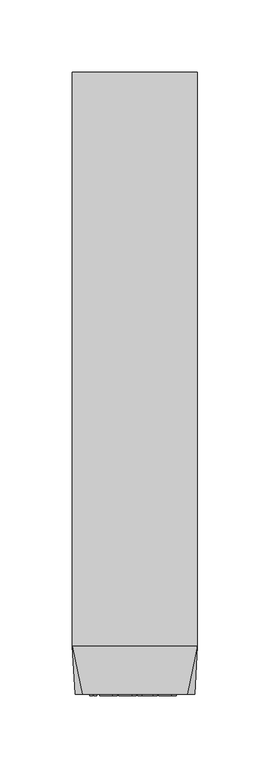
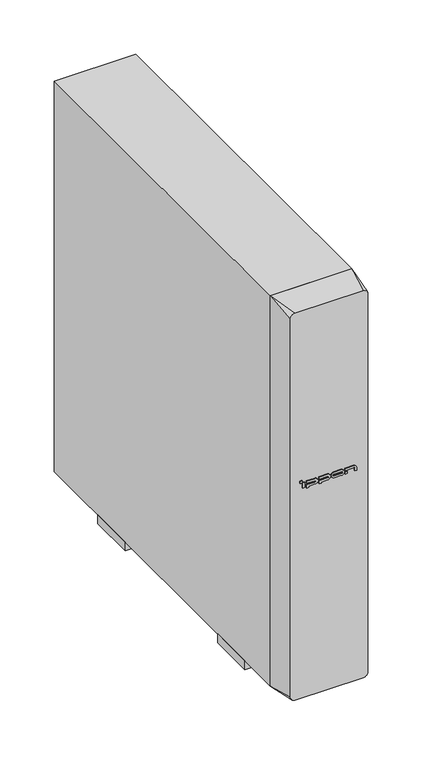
"""IFC4 building model written with IfcOpenShell, lengths in millimetres: proxy geometry, IPPON_EBM_Smart Winner II_1500_2000_2000E_3000ВА : EBM Smart Winner II 1500 ВА."""

import ifcopenshell
import ifcopenshell.guid

model = None  # the IFC model being written
_history = None  # IfcOwnerHistory: only IFC2X3 demands one
_inside = {}  # id of a spatial element -> (the spatial element, [elements in it])
_under = {}  # id of a project, library or spatial element -> (it, [spatial elements below it])
_declared = {}  # id of a project -> (the project, [libraries it declares])
_typed = {}  # id of a type object -> (the type object, [elements of that type])
_made_of = {}  # id of a material, layer set ... -> (it, [elements and type objects made of it])


def new_model(schema):
    """Start an empty IFC model of exactly this schema.

    Asked for "IFC4X3", IfcOpenShell would pick the latest addendum, in which some entities
    have other attributes; the version numbers below select the first issue.
    IFC2X3 requires an IfcOwnerHistory on every rooted entity: one is made here for all.
    """
    global model, _history
    if schema == "IFC4X3":
        model = ifcopenshell.file(schema_version=(4, 3, 0, 0))
    else:
        model = ifcopenshell.file(schema=schema)
    _inside.clear()
    _under.clear()
    _declared.clear()
    _typed.clear()
    _made_of.clear()
    _history = None
    if model.schema == "IFC2X3":
        org = make("IfcOrganization", Name="unknown")
        user = make(
            "IfcPersonAndOrganization",
            ThePerson=make("IfcPerson", FamilyName="unknown"),
            TheOrganization=org,
        )
        app = make(
            "IfcApplication",
            ApplicationDeveloper=org,
            Version="unknown",
            ApplicationFullName="unknown",
            ApplicationIdentifier="unknown",
        )
        _history = make(
            "IfcOwnerHistory",
            OwningUser=user,
            OwningApplication=app,
            ChangeAction="ADDED",
            CreationDate=0,
        )
    return model


def make(cls, **values):
    """One entity of the class cls with the attributes given. An attribute that is None is left unset."""
    return model.create_entity(
        cls, **{name: value for name, value in values.items() if value is not None}
    )


def rooted(cls, **values):
    """An entity with a GlobalId (a new one), such as an element, a storey or a relation."""
    return make(cls, GlobalId=ifcopenshell.guid.new(), OwnerHistory=_history, **values)


def si_unit(unit_type, name, prefix=None):
    """IfcSIUnit, for example si_unit("LENGTHUNIT", "METRE", prefix="MILLI")."""
    return make("IfcSIUnit", UnitType=unit_type, Prefix=prefix, Name=name)


def assignment(units):
    """IfcUnitAssignment: the units of a project."""
    return None if units is None else make("IfcUnitAssignment", Units=units)


def point(xyz):
    """IfcCartesianPoint."""
    return None if xyz is None else make("IfcCartesianPoint", Coordinates=xyz)


def direction(xyz):
    """IfcDirection."""
    return None if xyz is None else make("IfcDirection", DirectionRatios=xyz)


def frame(location, z_axis=None, x_axis=None):
    """IfcAxis2Placement3D, a coordinate frame: its origin and axes. An axis left out is left unset."""
    return make(
        "IfcAxis2Placement3D",
        Location=point(location),
        Axis=direction(z_axis),
        RefDirection=direction(x_axis),
    )


def frame_2d(location, x_axis=None):
    """IfcAxis2Placement2D, a coordinate frame in the plane: its origin and x axis."""
    return make(
        "IfcAxis2Placement2D", Location=point(location), RefDirection=direction(x_axis)
    )


def origin():
    """The frame at (0, 0, 0) with its axes left unset."""
    return frame((0.0, 0.0, 0.0))


def origin_with_axes():
    """The frame at (0, 0, 0) with the z axis (0, 0, 1) and the x axis (1, 0, 0) written out."""
    return frame((0.0, 0.0, 0.0), z_axis=(0.0, 0.0, 1.0), x_axis=(1.0, 0.0, 0.0))


def place(relative_to, where):
    """IfcLocalPlacement: puts the frame where relative to a parent placement (None: the world)."""
    return make(
        "IfcLocalPlacement", PlacementRelTo=relative_to, RelativePlacement=where
    )


def context(
    kind, dimensions, precision=None, world=None, true_north=None, identifier=None
):
    """IfcGeometricRepresentationContext, for example the 3D "Model" context."""
    return make(
        "IfcGeometricRepresentationContext",
        ContextIdentifier=identifier,
        ContextType=kind,
        CoordinateSpaceDimension=dimensions,
        Precision=precision,
        WorldCoordinateSystem=world,
        TrueNorth=true_north,
    )


def project(units=None, contexts=None):
    """IfcProject with its units and contexts."""
    return rooted(
        "IfcProject",
        Name="project",
        RepresentationContexts=contexts,
        UnitsInContext=assignment(units),
    )


def spatial(cls, under=None, at=None, **own):
    """A site, building, storey or space (cls), placed at a placement, below another one or the project."""
    s = rooted(cls, ObjectPlacement=at, **own)
    if under is not None:
        _under.setdefault(under.id(), (under, []))[1].append(s)
    return s


def polyline(points):
    """IfcPolyline through the points."""
    return make("IfcPolyline", Points=[point(p) for p in points])


def circle_curve(where, radius):
    """IfcCircle in the frame where."""
    return make("IfcCircle", Position=where, Radius=radius)


def trimmed(basis, trim1, trim2, sense, master):
    """IfcTrimmedCurve: the piece of a basis curve between two trims."""
    return make(
        "IfcTrimmedCurve",
        BasisCurve=basis,
        Trim1=trim1,
        Trim2=trim2,
        SenseAgreement=sense,
        MasterRepresentation=master,
    )


def segment(curve, same_sense, transition):
    """IfcCompositeCurveSegment."""
    return make(
        "IfcCompositeCurveSegment",
        Transition=transition,
        SameSense=same_sense,
        ParentCurve=curve,
    )


def composite_curve(segments, self_intersect=None):
    """IfcCompositeCurve: segments joined end to end."""
    return make("IfcCompositeCurve", Segments=segments, SelfIntersect=self_intersect)


def outline(outer, holes=None, kind="AREA"):
    """IfcArbitraryClosedProfileDef: a profile drawn as a closed curve; with holes, ...WithVoids."""
    if holes is None:
        return make("IfcArbitraryClosedProfileDef", ProfileType=kind, OuterCurve=outer)
    return make(
        "IfcArbitraryProfileDefWithVoids",
        ProfileType=kind,
        OuterCurve=outer,
        InnerCurves=holes,
    )


def extrude(swept, where, along, depth):
    """IfcExtrudedAreaSolid: the profile swept, set in the frame where, extruded along a direction by depth."""
    return make(
        "IfcExtrudedAreaSolid",
        SweptArea=swept,
        Position=where,
        ExtrudedDirection=direction(along),
        Depth=depth,
    )


def shape(context_of_items, identifier, shape_type, items):
    """IfcShapeRepresentation: the items that make up one representation, for example the "Body"."""
    return make(
        "IfcShapeRepresentation",
        ContextOfItems=context_of_items,
        RepresentationIdentifier=identifier,
        RepresentationType=shape_type,
        Items=items,
    )


def source(mapping_origin, context_of_items, identifier, shape_type, items):
    """IfcRepresentationMap: a shape defined once, which mapped items show again and again."""
    return make(
        "IfcRepresentationMap",
        MappingOrigin=mapping_origin,
        MappedRepresentation=shape(context_of_items, identifier, shape_type, items),
    )


def transform(
    local_origin,
    x_axis=None,
    y_axis=None,
    z_axis=None,
    scale=None,
    scale2=None,
    scale3=None,
    uniform=True,
):
    """IfcCartesianTransformationOperator3D, or its non-uniform kind. x_axis, y_axis, z_axis: its Axis1, 2, 3."""
    if uniform:
        return make(
            "IfcCartesianTransformationOperator3D",
            Axis1=direction(x_axis),
            Axis2=direction(y_axis),
            LocalOrigin=point(local_origin),
            Scale=scale,
            Axis3=direction(z_axis),
        )
    return make(
        "IfcCartesianTransformationOperator3DnonUniform",
        Axis1=direction(x_axis),
        Axis2=direction(y_axis),
        LocalOrigin=point(local_origin),
        Scale=scale,
        Axis3=direction(z_axis),
        Scale2=scale2,
        Scale3=scale3,
    )


def mapped(mapping_source, mapping_target):
    """IfcMappedItem: shows the shape of a source again, moved by a transform."""
    return make(
        "IfcMappedItem", MappingSource=mapping_source, MappingTarget=mapping_target
    )


def made_of(thing, what):
    """Note that an element or type object is made of a material, layer set ...; save() writes the relation."""
    if what is not None:
        _made_of.setdefault(what.id(), (what, []))[1].append(thing)
    return thing


def element(
    cls,
    number,
    at=None,
    inside=None,
    cuts=None,
    type_object=None,
    material=None,
    context=None,
    identifier="Body",
    shape_type=None,
    held_by="IfcProductDefinitionShape",
    body=None,
    shapes=None,
    **own,
):
    """One element of the class cls, such as IfcWall. Its Tag is "e" and its number.

    at: its placement. inside: the storey or other place that contains it. cuts: it is an
    opening in that element (IfcRelVoidsElement). A single representation is given by context,
    identifier, shape_type and body (its items); several are given by shapes. held_by: the class
    of the entity that holds the representations. save() writes the other relations.
    """
    e = rooted(cls, Tag="e%d" % number, ObjectPlacement=at, **own)
    if body is not None:
        shapes = [shape(context, identifier, shape_type, body)]
    if shapes is not None:
        e.Representation = make(held_by, Representations=shapes)
    if inside is not None:
        _inside.setdefault(inside.id(), (inside, []))[1].append(e)
    if cuts is not None:
        rooted(
            "IfcRelVoidsElement", RelatingBuildingElement=cuts, RelatedOpeningElement=e
        )
    if type_object is not None:
        _typed.setdefault(type_object.id(), (type_object, []))[1].append(e)
    return made_of(e, material)


def aggregate(whole, parts):
    """IfcRelAggregates: a whole, such as a stair, and the parts it consists of."""
    return rooted("IfcRelAggregates", RelatingObject=whole, RelatedObjects=parts)


def save(model, path):
    """Write the relations noted so far, then the file.

    IfcRelAggregates (storeys below a building ...), IfcRelContainedInSpatialStructure (elements
    in a storey), IfcRelDefinesByType, IfcRelAssociatesMaterial and IfcRelDeclares: one each for
    every whole, place, type object, material and project.
    """
    for whole, parts in _under.values():
        aggregate(whole, parts)
    for where, things in _inside.values():
        rooted(
            "IfcRelContainedInSpatialStructure",
            RelatedElements=things,
            RelatingStructure=where,
        )
    for kind, things in _typed.values():
        rooted("IfcRelDefinesByType", RelatedObjects=things, RelatingType=kind)
    for what, things in _made_of.values():
        rooted("IfcRelAssociatesMaterial", RelatedObjects=things, RelatingMaterial=what)
    for by, libraries in _declared.values():
        rooted("IfcRelDeclares", RelatingContext=by, RelatedDefinitions=libraries)
    model.write(path)


def plane_surface(at):
    """IfcPlane: the flat surface through the origin of the frame at, square to its z axis."""
    return make("IfcPlane", Position=at)


def spline_surface(u_degree, v_degree, points, u_multiplicities, v_multiplicities, u_knots, v_knots, weights=None):
    """IfcBSplineSurfaceWithKnots; with weights, IfcRationalBSplineSurfaceWithKnots. points: one row for each step in u."""
    own = dict(
        UDegree=u_degree,
        VDegree=v_degree,
        ControlPointsList=[[point(p) for p in row] for row in points],
        SurfaceForm="UNSPECIFIED",
        UClosed=False,
        VClosed=False,
        SelfIntersect=False,
        UMultiplicities=u_multiplicities,
        VMultiplicities=v_multiplicities,
        UKnots=u_knots,
        VKnots=v_knots,
        KnotSpec="UNSPECIFIED",
    )
    if weights is None:
        return make("IfcBSplineSurfaceWithKnots", **own)
    return make("IfcRationalBSplineSurfaceWithKnots", WeightsData=weights, **own)


def advanced_brep(points, edges, surfaces, faces):
    """IfcAdvancedBrep: a solid bounded by faces that lie on surfaces and meet in shared edges.

    An edge is (start, end): straight between two places in points (the first is 0);
    or (start, end, curve); or (start, end, curve, False) where it runs against its curve.
    A face is (place in surfaces, loops), or (place, loops, False) where it looks against
    its surface's normal. A loop lists edges by number (the first is 1), with a minus sign
    where the edge is run from its end to its start. The first loop is the outer one.
    """
    corners = [point(p) for p in points]
    vertices = [make("IfcVertexPoint", VertexGeometry=c) for c in corners]
    made = []
    for start, end, *more in edges:
        made.append(
            make(
                "IfcEdgeCurve",
                EdgeStart=vertices[start],
                EdgeEnd=vertices[end],
                EdgeGeometry=more[0] if more else make("IfcPolyline", Points=[corners[start], corners[end]]),
                SameSense=more[1] if len(more) > 1 else True,
            )
        )
    hull = []
    for where, loops, *sense in faces:
        bounds = []
        for j, loop in enumerate(loops):
            ring = [make("IfcOrientedEdge", EdgeElement=made[abs(k) - 1], Orientation=k > 0) for k in loop]
            bounds.append(
                make(
                    "IfcFaceOuterBound" if j == 0 else "IfcFaceBound",
                    Bound=make("IfcEdgeLoop", EdgeList=ring),
                    Orientation=True,
                )
            )
        hull.append(make("IfcAdvancedFace", Bounds=bounds, FaceSurface=surfaces[where], SameSense=sense[0] if sense else True))
    return make("IfcAdvancedBrep", Outer=make("IfcClosedShell", CfsFaces=hull))


def electrical_equipment_fab1fcb4(model_context):
    return source(origin(), model_context, "Body", "SolidModel", [
        extrude(outline(polyline([(-29.1718133, -1.0), (-31.1718133, -1.0), (-31.1718133, 0.0), (-29.1718133, 0.0), (-29.1718133, -1.0)])), frame((0.0, 0.0, 253.8445835), z_axis=(0.0, 0.0, 1.0), x_axis=(1.0, 0.0, 0.0)), (0.0, 0.0, 1.0), 2.3),
        extrude(outline(polyline([(18.6035474, -1.0), (16.6035474, -1.0), (16.6035474, 0.0), (18.6035474, 0.0), (18.6035474, -1.0)])), frame((0.0, 0.0, 247.8445835), z_axis=(0.0, 0.0, 1.0), x_axis=(1.0, 0.0, 0.0)), (0.0, 0.0, 1.0), 2.2268231),
        extrude(outline(polyline([(-26.438565, -1.0), (-28.4833324, -1.0), (-28.4833324, 0.0), (-26.438565, 0.0), (-26.438565, -1.0)])), frame((0.0, 0.0, 247.8445835), z_axis=(0.0, 0.0, 1.0), x_axis=(1.0, 0.0, 0.0)), (0.0, 0.0, 1.0), 6.0),
        extrude(outline(composite_curve([segment(polyline([(251.5821435, -24.2241109), (251.5821435, -14.9923536)]), True, "CONTINUOUS"), segment(trimmed(circle_curve(frame_2d((250.7256642, -14.9923536)), 0.8564793), [point((251.5821435, -14.9923536))], [point((249.8691849, -14.9923536))], True, "CARTESIAN"), True, "CONTINUOUS"), segment(polyline([(249.8691849, -14.9923536), (249.8691849, -24.2241109), (246.3786803, -24.2241109), (246.3786803, -22.2241109), (247.8445835, -22.2241109), (247.8445835, -15.1486036)]), True, "CONTINUOUS"), segment(trimmed(circle_curve(frame_2d((250.8445835, -15.1486036)), 3.0), [point((247.8445835, -15.1486036))], [point((253.8445835, -15.1486036))], False, "CARTESIAN"), True, "CONTINUOUS"), segment(polyline([(253.8445835, -15.1486036), (253.8445835, -24.2241109), (251.5821435, -24.2241109)]), True, "CONTINUOUS")], self_intersect=False)), frame((0.0, -1.0, 0.0), z_axis=(0.0, 1.0, 0.0), x_axis=(0.0, 0.0, 1.0)), (0.0, 0.0, 1.0), 1.0),
        extrude(outline(composite_curve([segment(polyline([(251.5821435, -11.0171091), (251.5821435, -1.7853518)]), True, "CONTINUOUS"), segment(trimmed(circle_curve(frame_2d((250.7256642, -1.7853518)), 0.8564793), [point((251.5821435, -1.7853518))], [point((249.8691849, -1.7853518))], True, "CARTESIAN"), True, "CONTINUOUS"), segment(polyline([(249.8691849, -1.7853518), (249.8691849, -11.0171091), (246.3786803, -11.0171091), (246.3786803, -9.0171091), (247.8445835, -9.0171091), (247.8445835, -1.9416018)]), True, "CONTINUOUS"), segment(trimmed(circle_curve(frame_2d((250.8445835, -1.9416018)), 3.0), [point((247.8445835, -1.9416018))], [point((253.8445835, -1.9416018))], False, "CARTESIAN"), True, "CONTINUOUS"), segment(polyline([(253.8445835, -1.9416018), (253.8445835, -11.0171091), (251.5821435, -11.0171091)]), True, "CONTINUOUS")], self_intersect=False)), frame((0.0, -1.0, 0.0), z_axis=(0.0, 1.0, 0.0), x_axis=(0.0, 0.0, 1.0)), (0.0, 0.0, 1.0), 1.0),
        extrude(outline(composite_curve([segment(trimmed(circle_curve(frame_2d((250.8445835, 12.558657)), 3.0), [point((247.8445835, 12.558657))], [point((253.8445835, 12.558657))], False, "CARTESIAN"), True, "CONTINUOUS"), segment(polyline([(253.8445835, 12.558657), (253.8445835, 4.958657)]), True, "CONTINUOUS"), segment(trimmed(circle_curve(frame_2d((250.8445835, 4.958657)), 3.0), [point((253.8445835, 4.958657))], [point((247.8445835, 4.958657))], False, "CARTESIAN"), True, "CONTINUOUS"), segment(polyline([(247.8445835, 4.958657), (247.8445835, 12.558657)]), True, "CONTINUOUS")], self_intersect=False), holes=[composite_curve([segment(polyline([(249.8691849, 12.714907), (249.8691849, 4.802407)]), True, "CONTINUOUS"), segment(trimmed(circle_curve(frame_2d((250.7256642, 4.802407)), 0.8564793), [point((249.8691849, 4.802407))], [point((251.5821435, 4.802407))], True, "CARTESIAN"), True, "CONTINUOUS"), segment(polyline([(251.5821435, 4.802407), (251.5821435, 12.714907)]), True, "CONTINUOUS"), segment(trimmed(circle_curve(frame_2d((250.7256642, 12.714907)), 0.8564793), [point((251.5821435, 12.714907))], [point((249.8691849, 12.714907))], True, "CARTESIAN"), True, "CONTINUOUS")], self_intersect=False)]), frame((0.0, -1.0, 0.0), z_axis=(0.0, 1.0, 0.0), x_axis=(0.0, 0.0, 1.0)), (0.0, 0.0, 1.0), 1.0),
        extrude(outline(composite_curve([segment(polyline([(251.5821435, 16.6035474), (251.5821435, 25.8353046)]), True, "CONTINUOUS"), segment(trimmed(circle_curve(frame_2d((250.7256642, 25.8353046)), 0.8564793), [point((251.5821435, 25.8353046))], [point((250.7256642, 26.6917839))], True, "CARTESIAN"), True, "CONTINUOUS"), segment(polyline([(250.7256642, 26.6917839), (247.8445835, 26.6917839), (247.8445835, 28.6317921), (251.375, 28.6317921)]), True, "CONTINUOUS"), segment(trimmed(circle_curve(frame_2d((250.8445835, 25.6790546)), 3.0), [point((251.375, 28.6317921))], [point((253.8445835, 25.6790546))], False, "CARTESIAN"), True, "CONTINUOUS"), segment(polyline([(253.8445835, 25.6790546), (253.8445835, 16.6035474), (251.5821435, 16.6035474)]), True, "CONTINUOUS")], self_intersect=False)), frame((0.0, -1.0, 0.0), z_axis=(0.0, 1.0, 0.0), x_axis=(0.0, 0.0, 1.0)), (0.0, 0.0, 1.0), 1.0),
        extrude(outline(polyline([(-43.25, 350.0), (43.25, 350.0), (43.25, 300.0), (-43.25, 300.0), (-43.25, 350.0)])), origin_with_axes(), (0.0, 0.0, 1.0), 10.0),
        extrude(outline(polyline([(43.25, 80.0), (-43.25, 80.0), (-43.25, 130.0), (43.25, 130.0), (43.25, 80.0)])), origin_with_axes(), (0.0, 0.0, 1.0), 10.0),
        advanced_brep(
        [(36.25, 0.0, 12.0), (41.25, 0.0, 17.0), (41.25, 0.0, 441.0), (36.25, 0.0, 446.0), (-36.25, 0.0, 446.0), (-41.25, 0.0, 441.0), (-41.25, 0.0, 17.0), (-36.25, 0.0, 12.0), (43.25, 33.0, 10.0), (-43.25, 33.0, 10.0), (-43.25, 33.0, 448.0), (43.25, 33.0, 448.0)],
        [
            (0, 1, circle_curve(frame((36.25, 0.0, 17.0), z_axis=(0.0, -1.0, 0.0), x_axis=(-1.0, 0.0, 0.0)), 5.0)),
            (1, 2),
            (2, 3, circle_curve(frame((36.25, 0.0, 441.0), z_axis=(0.0, -1.0, 0.0), x_axis=(-1.0, 0.0, 0.0)), 5.0)),
            (3, 4),
            (4, 5, circle_curve(frame((-36.25, 0.0, 441.0), z_axis=(0.0, -1.0, 0.0), x_axis=(-1.0, 0.0, 0.0)), 5.0)),
            (5, 6),
            (6, 7, circle_curve(frame((-36.25, 0.0, 17.0), z_axis=(0.0, -1.0, 0.0), x_axis=(-1.0, 0.0, 0.0)), 5.0)),
            (7, 0),
            (8, 9),
            (9, 10),
            (10, 11),
            (11, 8),
            (0, 8),
            (8, 1),
            (7, 9),
            (6, 9),
            (5, 10),
            (4, 10),
            (3, 11),
            (2, 11),
        ],
        [
            plane_surface(frame((0.0, 0.0, 229.0), z_axis=(0.0, -1.0, 0.0), x_axis=(1.0, 0.0, 0.0))),
            plane_surface(frame((0.0, 33.0, 229.0), z_axis=(0.0, 1.0, 0.0), x_axis=(1.0, 0.0, 0.0))),
            spline_surface(2, 1, [[(43.25, 33.0, 10.0), (36.25, 0.0, 12.0)], [(43.25, 33.0, 10.0), (41.25, 0.0, 12.0)], [(43.25, 33.0, 10.0), (41.25, 0.0, 17.0)]], [3, 3], [2, 2], [0.0, 1.0], [0.0, 1.0], weights=[[1.0, 1.0], [0.7071067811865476, 0.7071067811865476], [1.0, 1.0]]),
            plane_surface(frame((0.0, 33.0, 10.0), z_axis=(0.0, -0.060495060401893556, -0.9981684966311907), x_axis=(1.0, 0.0, 0.0))),
            spline_surface(2, 1, [[(-43.25, 33.0, 10.0), (-41.25, 0.0, 17.0)], [(-43.25, 33.0, 10.0), (-41.25, 0.0, 12.0)], [(-43.25, 33.0, 10.0), (-36.25, 0.0, 12.0)]], [3, 3], [2, 2], [0.0, 1.0], [0.0, 1.0], weights=[[1.0, 1.0], [0.7071067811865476, 0.7071067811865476], [1.0, 1.0]]),
            plane_surface(frame((-43.25, 33.0, 229.0), z_axis=(-0.998168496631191, -0.06049506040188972, 0.0), x_axis=(0.0, 0.0, -1.0))),
            spline_surface(2, 1, [[(-43.25, 33.0, 448.0), (-36.25, 0.0, 446.0)], [(-43.25, 33.0, 448.0), (-41.25, 0.0, 446.0)], [(-43.25, 33.0, 448.0), (-41.25, 0.0, 441.0)]], [3, 3], [2, 2], [0.0, 1.0], [0.0, 1.0], weights=[[1.0, 1.0], [0.7071067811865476, 0.7071067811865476], [1.0, 1.0]]),
            plane_surface(frame((0.0, 33.0, 448.0), z_axis=(0.0, -0.06049506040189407, 0.9981684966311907), x_axis=(-1.0, 0.0, 0.0))),
            spline_surface(2, 1, [[(43.25, 33.0, 448.0), (41.25, 0.0, 441.0)], [(43.25, 33.0, 448.0), (41.25, 0.0, 446.0)], [(43.25, 33.0, 448.0), (36.25, 0.0, 446.0)]], [3, 3], [2, 2], [0.0, 1.0], [0.0, 1.0], weights=[[1.0, 1.0], [0.7071067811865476, 0.7071067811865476], [1.0, 1.0]]),
            plane_surface(frame((43.25, 33.0, 229.0), z_axis=(0.9981684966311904, -0.06049506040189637, 0.0), x_axis=(0.0, 0.0, 1.0))),
        ],
        [
            (0, [[1, 2, 3, 4, 5, 6, 7, 8]]),
            (1, [[9, 10, 11, 12]]),
            (2, [[-1, 13, 14]]),
            (3, [[-9, -13, -8, 15]]),
            (4, [[-7, 16, -15]]),
            (5, [[-10, -16, -6, 17]]),
            (6, [[-5, 18, -17]]),
            (7, [[-11, -18, -4, 19]]),
            (8, [[-3, 20, -19]]),
            (9, [[-12, -20, -2, -14]]),
        ],
    ),
        extrude(outline(polyline([(43.25, 33.0), (-43.25, 33.0), (-43.25, 430.0), (43.25, 430.0), (43.25, 33.0)])), frame((0.0, 0.0, 10.0), z_axis=(0.0, 0.0, 1.0), x_axis=(1.0, 0.0, 0.0)), (0.0, 0.0, 1.0), 438.0),
    ])


if __name__ == "__main__":
    model = new_model("IFC4")
    model_context = context("Model", 3, world=origin())
    ifc_project = project(units=[si_unit("LENGTHUNIT", "METRE", prefix="MILLI")], contexts=[model_context])
    site = spatial("IfcSite", under=ifc_project)
    building = spatial("IfcBuilding", under=site)
    placement = place(None, origin())
    electrical_equipment_shape = electrical_equipment_fab1fcb4(model_context)
    element("IfcBuildingElementProxy", 1, Name="IPPON_EBM_Smart Winner II_1500_2000_2000E_3000ВА : EBM Smart Winner II 1500 ВА", ObjectType="IPPON_EBM_Smart Winner II_1500_2000_2000E_3000ВА : EBM Smart Winner II 1500 ВА", at=placement, inside=building, context=model_context, shape_type="MappedRepresentation", body=[
        mapped(electrical_equipment_shape, transform((0.0, 0.0, 0.0), x_axis=(1.0, 0.0, 0.0), y_axis=(0.0, 1.0, 0.0), z_axis=(0.0, 0.0, 1.0))),
    ])
    save(model, "model.ifc")
